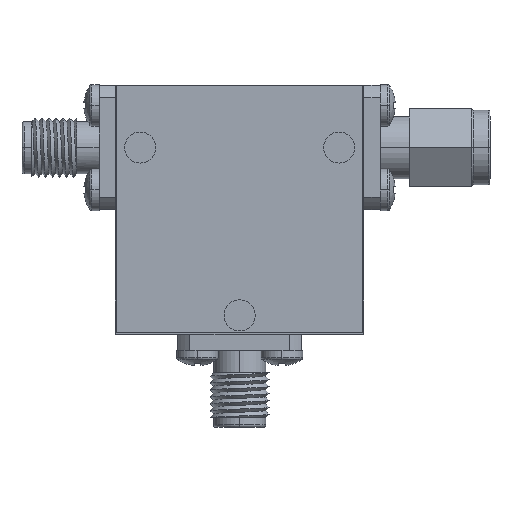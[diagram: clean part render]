
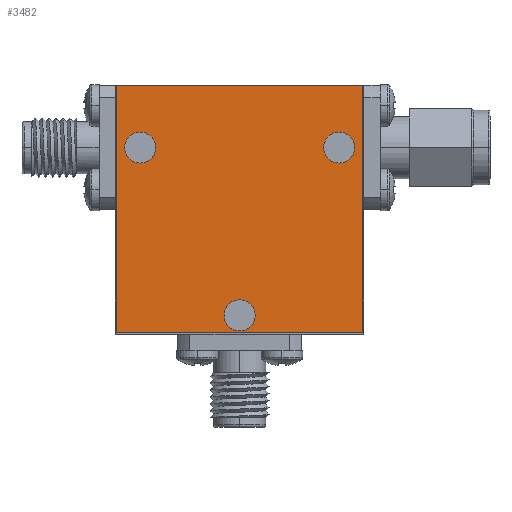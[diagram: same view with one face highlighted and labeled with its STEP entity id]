
A CAD part, top view. The second image highlights one B-rep face of the part: STEP entity #3482.
In plain terms, the highlighted planar face has unit normal (0, 0, 1).
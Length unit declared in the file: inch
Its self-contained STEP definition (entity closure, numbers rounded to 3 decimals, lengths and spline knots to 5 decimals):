
#27 = EDGE_CURVE ( 'NONE', #833, #2453, #4296, .T. ) ;
#73 = VERTEX_POINT ( 'NONE', #4311 ) ;
#85 = AXIS2_PLACEMENT_3D ( 'NONE', #1058, #3675, #1070 ) ;
#110 = FACE_OUTER_BOUND ( 'NONE', #4220, .T. ) ;
#263 = DIRECTION ( 'NONE',  ( 1., 0., 0. ) ) ;
#425 = CARTESIAN_POINT ( 'NONE',  ( -0.4, 0.2475, 0.504 ) ) ;
#492 = CIRCLE ( 'NONE', #4184, 0.0625 ) ;
#611 = AXIS2_PLACEMENT_3D ( 'NONE', #425, #4714, #2993 ) ;
#675 = CIRCLE ( 'NONE', #1049, 0.0625 ) ;
#687 = LINE ( 'NONE', #5343, #2844 ) ;
#710 = CARTESIAN_POINT ( 'NONE',  ( -0.3375, 0.2475, 0.504 ) ) ;
#715 = CARTESIAN_POINT ( 'NONE',  ( -0.4625, 0.2475, 0.504 ) ) ;
#735 = ORIENTED_EDGE ( 'NONE', *, *, #27, .F. ) ;
#800 = VECTOR ( 'NONE', #874, 39.37008 ) ;
#815 = AXIS2_PLACEMENT_3D ( 'NONE', #1166, #4509, #3326 ) ;
#833 = VERTEX_POINT ( 'NONE', #715 ) ;
#834 = FACE_BOUND ( 'NONE', #2171, .T. ) ;
#874 = DIRECTION ( 'NONE',  ( 1., 0., 0. ) ) ;
#899 = CARTESIAN_POINT ( 'NONE',  ( 0.495, -0.4975, 0.504 ) ) ;
#904 = VERTEX_POINT ( 'NONE', #1266 ) ;
#1049 = AXIS2_PLACEMENT_3D ( 'NONE', #5045, #5484, #263 ) ;
#1056 = CARTESIAN_POINT ( 'NONE',  ( 0.4, 0.2475, 0.504 ) ) ;
#1058 = CARTESIAN_POINT ( 'NONE',  ( 0., 0., 0.504 ) ) ;
#1070 = DIRECTION ( 'NONE',  ( -1., 0., 0. ) ) ;
#1092 = ORIENTED_EDGE ( 'NONE', *, *, #1912, .F. ) ;
#1113 = CARTESIAN_POINT ( 'NONE',  ( 0.0625, -0.4275, 0.504 ) ) ;
#1146 = VECTOR ( 'NONE', #1333, 39.37008 ) ;
#1166 = CARTESIAN_POINT ( 'NONE',  ( -0.4, 0.2475, 0.504 ) ) ;
#1266 = CARTESIAN_POINT ( 'NONE',  ( -0.495, -0.4975, 0.504 ) ) ;
#1333 = DIRECTION ( 'NONE',  ( 0., 1., 0. ) ) ;
#1417 = VERTEX_POINT ( 'NONE', #1113 ) ;
#1466 = CARTESIAN_POINT ( 'NONE',  ( 0., -0.4275, 0.504 ) ) ;
#1479 = DIRECTION ( 'NONE',  ( 0., 0., 1. ) ) ;
#1573 = ORIENTED_EDGE ( 'NONE', *, *, #1799, .F. ) ;
#1581 = CARTESIAN_POINT ( 'NONE',  ( 0.4625, 0.2475, 0.504 ) ) ;
#1772 = CIRCLE ( 'NONE', #5348, 0.0625 ) ;
#1799 = EDGE_CURVE ( 'NONE', #2869, #1417, #492, .T. ) ;
#1869 = EDGE_CURVE ( 'NONE', #5358, #2326, #687, .T. ) ;
#1882 = CARTESIAN_POINT ( 'NONE',  ( -0.495, -0.4975, 0.504 ) ) ;
#1912 = EDGE_CURVE ( 'NONE', #4478, #73, #1772, .T. ) ;
#1980 = EDGE_CURVE ( 'NONE', #2453, #833, #2504, .T. ) ;
#2138 = VERTEX_POINT ( 'NONE', #5156 ) ;
#2156 = CARTESIAN_POINT ( 'NONE',  ( -0.0625, -0.4275, 0.504 ) ) ;
#2171 = EDGE_LOOP ( 'NONE', ( #5249, #1573 ) ) ;
#2326 = VERTEX_POINT ( 'NONE', #5396 ) ;
#2453 = VERTEX_POINT ( 'NONE', #710 ) ;
#2504 = CIRCLE ( 'NONE', #815, 0.0625 ) ;
#2686 = CARTESIAN_POINT ( 'NONE',  ( 0.495, 0.4975, 0.504 ) ) ;
#2764 = DIRECTION ( 'NONE',  ( -1., 0., 0. ) ) ;
#2787 = EDGE_CURVE ( 'NONE', #1417, #2869, #3311, .T. ) ;
#2844 = VECTOR ( 'NONE', #2764, 39.37008 ) ;
#2855 = ORIENTED_EDGE ( 'NONE', *, *, #1980, .F. ) ;
#2869 = VERTEX_POINT ( 'NONE', #2156 ) ;
#2940 = ORIENTED_EDGE ( 'NONE', *, *, #4656, .T. ) ;
#2993 = DIRECTION ( 'NONE',  ( 1., 0., 0. ) ) ;
#3311 = CIRCLE ( 'NONE', #5411, 0.0625 ) ;
#3326 = DIRECTION ( 'NONE',  ( 1., 0., 0. ) ) ;
#3330 = EDGE_CURVE ( 'NONE', #73, #4478, #675, .T. ) ;
#3482 = ADVANCED_FACE ( 'NONE', ( #834, #5292, #3745, #110 ), #3654, .F. ) ;
#3485 = EDGE_CURVE ( 'NONE', #2326, #904, #3816, .T. ) ;
#3522 = LINE ( 'NONE', #5173, #800 ) ;
#3555 = VECTOR ( 'NONE', #4528, 39.37008 ) ;
#3654 = PLANE ( 'NONE',  #85 ) ;
#3675 = DIRECTION ( 'NONE',  ( 0., 0., -1. ) ) ;
#3745 = FACE_BOUND ( 'NONE', #5222, .T. ) ;
#3816 = LINE ( 'NONE', #1882, #3555 ) ;
#4018 = DIRECTION ( 'NONE',  ( 0., 0., 1. ) ) ;
#4184 = AXIS2_PLACEMENT_3D ( 'NONE', #1466, #1479, #4474 ) ;
#4220 = EDGE_LOOP ( 'NONE', ( #2940, #5154, #4333, #4763 ) ) ;
#4224 = DIRECTION ( 'NONE',  ( 1., 0., 0. ) ) ;
#4296 = CIRCLE ( 'NONE', #611, 0.0625 ) ;
#4311 = CARTESIAN_POINT ( 'NONE',  ( 0.3375, 0.2475, 0.504 ) ) ;
#4333 = ORIENTED_EDGE ( 'NONE', *, *, #3485, .T. ) ;
#4411 = ORIENTED_EDGE ( 'NONE', *, *, #3330, .F. ) ;
#4451 = DIRECTION ( 'NONE',  ( 1., 0., 0. ) ) ;
#4474 = DIRECTION ( 'NONE',  ( 1., 0., 0. ) ) ;
#4478 = VERTEX_POINT ( 'NONE', #1581 ) ;
#4509 = DIRECTION ( 'NONE',  ( 0., 0., 1. ) ) ;
#4528 = DIRECTION ( 'NONE',  ( 0., -1., 0. ) ) ;
#4656 = EDGE_CURVE ( 'NONE', #2138, #5358, #4661, .T. ) ;
#4661 = LINE ( 'NONE', #899, #1146 ) ;
#4714 = DIRECTION ( 'NONE',  ( 0., 0., 1. ) ) ;
#4763 = ORIENTED_EDGE ( 'NONE', *, *, #5123, .T. ) ;
#5045 = CARTESIAN_POINT ( 'NONE',  ( 0.4, 0.2475, 0.504 ) ) ;
#5123 = EDGE_CURVE ( 'NONE', #904, #2138, #3522, .T. ) ;
#5154 = ORIENTED_EDGE ( 'NONE', *, *, #1869, .T. ) ;
#5156 = CARTESIAN_POINT ( 'NONE',  ( 0.495, -0.4975, 0.504 ) ) ;
#5173 = CARTESIAN_POINT ( 'NONE',  ( -0.495, -0.4975, 0.504 ) ) ;
#5193 = EDGE_LOOP ( 'NONE', ( #1092, #4411 ) ) ;
#5222 = EDGE_LOOP ( 'NONE', ( #2855, #735 ) ) ;
#5249 = ORIENTED_EDGE ( 'NONE', *, *, #2787, .F. ) ;
#5282 = CARTESIAN_POINT ( 'NONE',  ( 0., -0.4275, 0.504 ) ) ;
#5292 = FACE_BOUND ( 'NONE', #5193, .T. ) ;
#5343 = CARTESIAN_POINT ( 'NONE',  ( -0.495, 0.4975, 0.504 ) ) ;
#5348 = AXIS2_PLACEMENT_3D ( 'NONE', #1056, #5469, #4224 ) ;
#5358 = VERTEX_POINT ( 'NONE', #2686 ) ;
#5396 = CARTESIAN_POINT ( 'NONE',  ( -0.495, 0.4975, 0.504 ) ) ;
#5411 = AXIS2_PLACEMENT_3D ( 'NONE', #5282, #4018, #4451 ) ;
#5469 = DIRECTION ( 'NONE',  ( 0., 0., 1. ) ) ;
#5484 = DIRECTION ( 'NONE',  ( 0., 0., 1. ) ) ;
